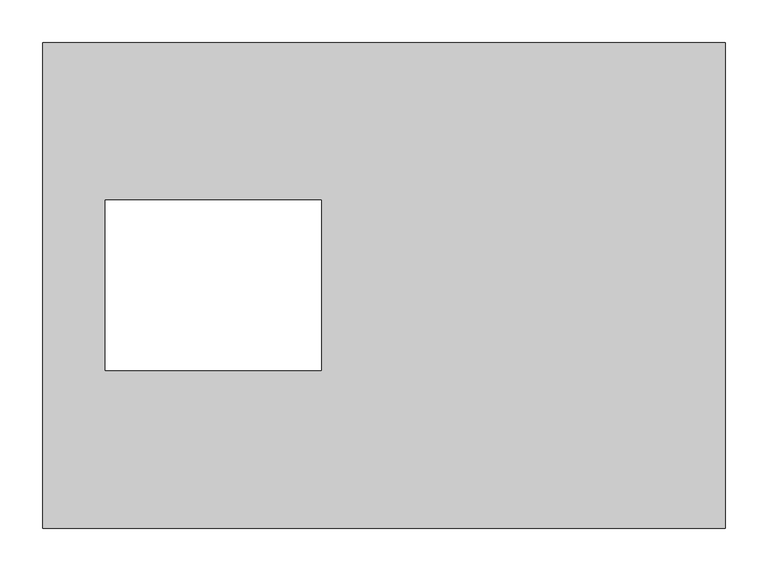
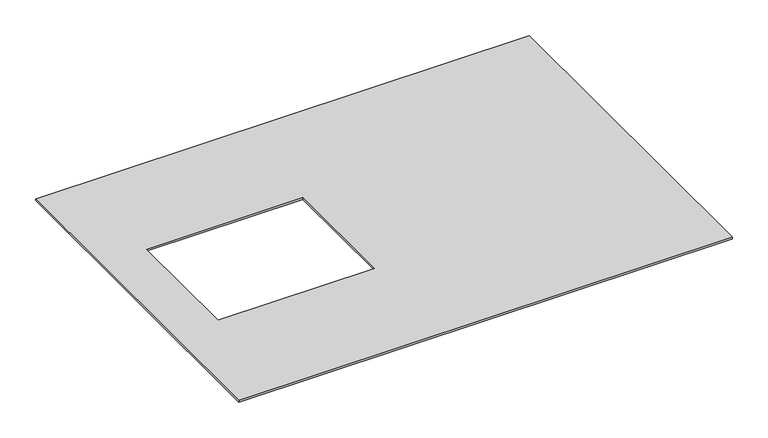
"""IFC4 building model written with IfcOpenShell, lengths in millimetres: proxy geometry, Electrical_Installation_Hager_Cover-E09-BKA : Electrical_Installation_Hager_Cover-E09-BKA."""

from ifc_helpers import new_model, si_unit, frame, origin, place, context, project, spatial, polyline, outline, extrude, source, transform, mapped, element, save


def electrical_fixtures_47809ec4(model_context):
    return source(origin(), model_context, "Body", "SweptSolid", [
        extrude(outline(polyline([(800.0, 284.75), (800.0, -284.75), (0.0, -284.75), (0.0, 284.75), (800.0, 284.75)]), holes=[polyline([(326.5, 100.0), (73.5, 100.0), (73.5, -100.0), (326.5, -100.0), (326.5, 100.0)])]), frame((0.0, 0.0, 10.0), z_axis=(0.0, 0.0, 1.0), x_axis=(1.0, 0.0, 0.0)), (0.0, 0.0, 1.0), 3.0),
    ])


if __name__ == "__main__":
    model = new_model("IFC4")
    model_context = context("Model", 3, world=origin())
    ifc_project = project(units=[si_unit("LENGTHUNIT", "METRE", prefix="MILLI")], contexts=[model_context])
    site = spatial("IfcSite", under=ifc_project)
    building = spatial("IfcBuilding", under=site)
    placement = place(None, origin())
    electrical_fixtures_shape = electrical_fixtures_47809ec4(model_context)
    element("IfcBuildingElementProxy", 1, Name="Electrical_Installation_Hager_Cover-E09-BKA : Electrical_Installation_Hager_Cover-E09-BKA", ObjectType="Electrical_Installation_Hager_Cover-E09-BKA : Electrical_Installation_Hager_Cover-E09-BKA", at=placement, inside=building, context=model_context, shape_type="MappedRepresentation", body=[
        mapped(electrical_fixtures_shape, transform((0.0, 0.0, 0.0), x_axis=(1.0, 0.0, 0.0), y_axis=(0.0, 1.0, 0.0), z_axis=(0.0, 0.0, 1.0))),
    ])
    save(model, "model.ifc")
